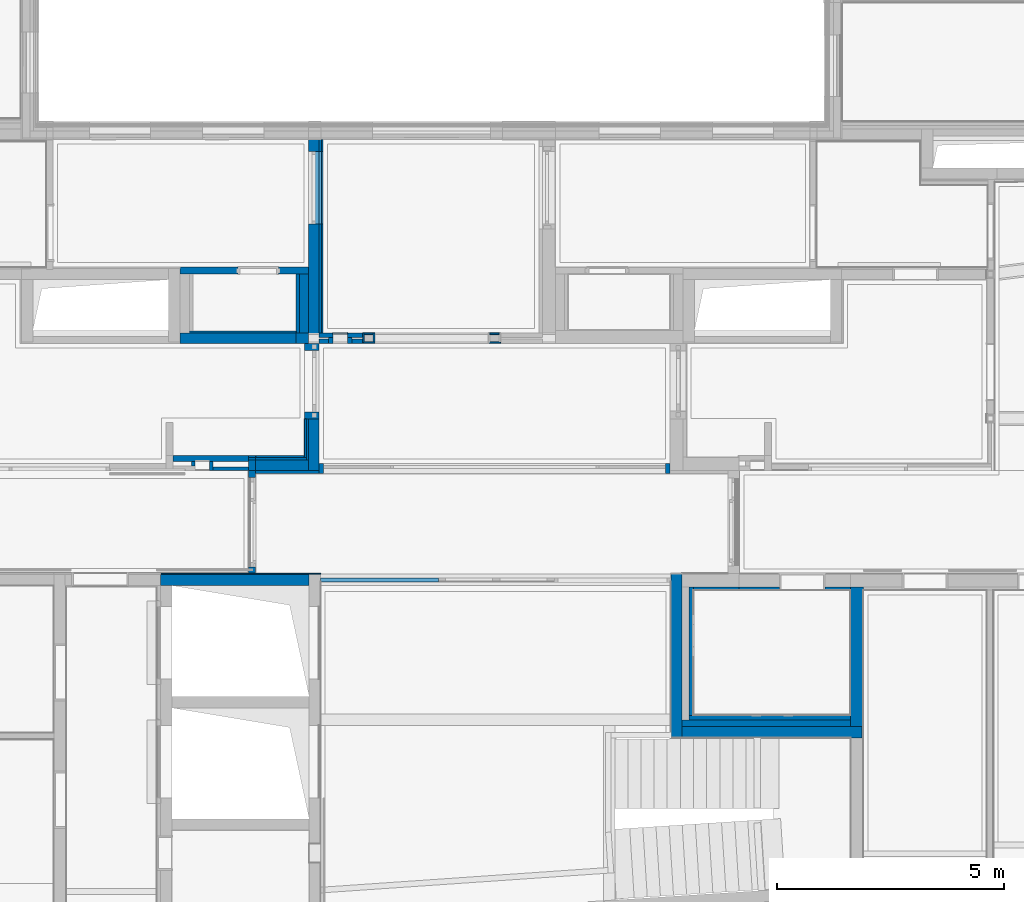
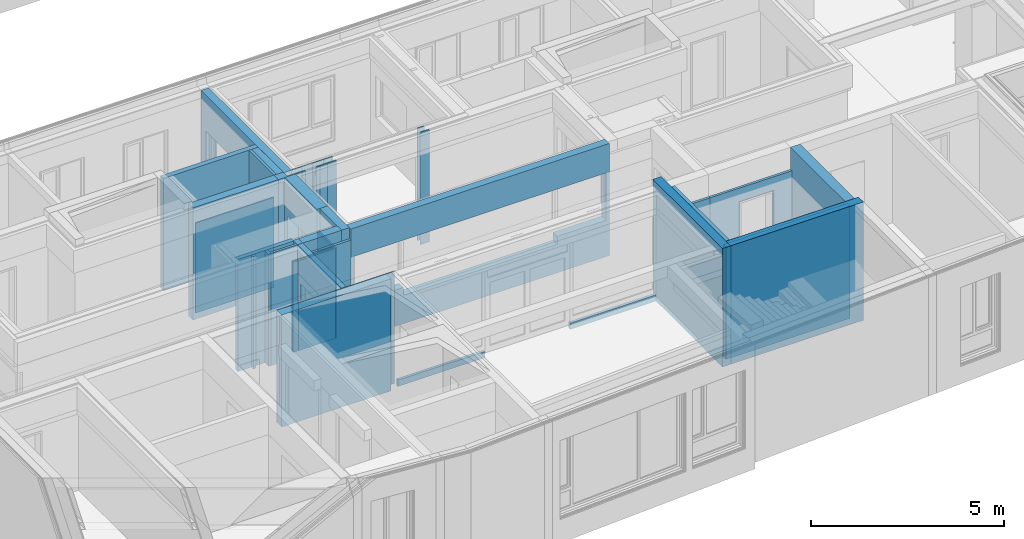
# One storey, part 25 of 222: 50 walls, 13 openings.
"""IFC4 building model written with IfcOpenShell, lengths in metres."""

from ifc_helpers import new_model, entity, si_unit, converted_unit, derived_unit, frame, frame_2d, origin, origin_with_axes, place, context, subcontext, project, spatial, polyline, rectangle, outline, extrude, clip, bounded_halfspace, material, element, save


model = new_model("IFC4")

# Units and contexts
model_context = context("Model", 3, precision=1e-05, world=origin())
body_context = subcontext(model_context, "Body", "Model", "MODEL_VIEW")
ifc_project = project(units=[si_unit("LENGTHUNIT", "METRE"), si_unit("AREAUNIT", "SQUARE_METRE"), si_unit("VOLUMEUNIT", "CUBIC_METRE"), si_unit("MASSUNIT", "GRAM", prefix="KILO"), converted_unit("PLANEANGLEUNIT", "DEGREE", entity("IfcPlaneAngleMeasure", 0.0174532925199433), si_unit("PLANEANGLEUNIT", "RADIAN"), dimensions=[0, 0, 0, 0, 0, 0, 0]), derived_unit("THERMALTRANSMITTANCEUNIT", [(si_unit("POWERUNIT", "WATT"), 1), (si_unit("THERMODYNAMICTEMPERATUREUNIT", "KELVIN"), -1), (si_unit("LENGTHUNIT", "METRE"), -2)]), derived_unit("VOLUMETRICFLOWRATEUNIT", [(si_unit("LENGTHUNIT", "METRE"), 3), (converted_unit("TIMEUNIT", "hour", entity("IfcTimeMeasure", 3600.0), si_unit("TIMEUNIT", "SECOND"), dimensions=[0, 0, 1, 0, 0, 0, 0]), -1), (si_unit("LENGTHUNIT", "METRE"), -1)])], contexts=[model_context])

# Site, building, storey
site_placement = place(None, origin())
site = spatial("IfcSite", under=ifc_project, at=site_placement, Name="Psychiatrie Neubau Wunstorf", CompositionType="ELEMENT")
building_placement = place(site_placement, origin())
building = spatial("IfcBuilding", under=site, at=building_placement, Name="Neubau H2 Stationsgebäude", CompositionType="ELEMENT")
storey_placement = place(building_placement, frame((0.0, 0.0, 3.6)))
storey = spatial("IfcBuildingStorey", under=building, at=storey_placement, Name="H2 Ebene +1", CompositionType="ELEMENT", Elevation=3.6)

# Walls
ifc_material_1 = material(Name="WI-HW 60")
wall_1_placement = place(storey_placement, frame((50.5180000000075, 2.81749969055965, 0.0), z_axis=(0.0, 0.0, 1.0), x_axis=(0.0, 1.0, 0.0)))
element("IfcWall", 1, at=wall_1_placement, inside=storey, material=ifc_material_1, context=body_context, shape_type="SweptSolid", body=[
    extrude(rectangle(XDim=1.13500052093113, YDim=0.232, at=frame_2d((0.567500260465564, 0.116), x_axis=(1.0, 0.0))), origin_with_axes(), (0.0, 0.0, 1.0), 3.55),
])
ifc_material_2 = material(Name="Installationsraum")
wall_2_placement = place(storey_placement, frame((50.2860000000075, 3.04949969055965, 0.0), z_axis=(0.0, 0.0, 1.0), x_axis=(0.0, 1.0, 0.0)))
element("IfcWall", 2, at=wall_2_placement, inside=storey, material=ifc_material_2, context=body_context, shape_type="SweptSolid", body=[
    extrude(rectangle(XDim=0.903000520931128, YDim=0.05, at=frame_2d((0.451500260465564, 0.025), x_axis=(1.0, 0.0))), origin_with_axes(), (0.0, 0.0, 1.0), 2.85),
])
ifc_material_3 = material(Name="WI-LB")
wall_3_placement = place(storey_placement, frame((50.2360000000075, 3.10249969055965, 0.0), z_axis=(0.0, 0.0, 1.0), x_axis=(0.0, 1.0, 0.0)))
element("IfcWall", 3, at=wall_3_placement, inside=storey, material=ifc_material_3, context=body_context, shape_type="SweptSolid", body=[
    extrude(rectangle(XDim=0.850000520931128, YDim=0.04, at=frame_2d((0.425000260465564, 0.02), x_axis=(1.0, 0.0))), origin_with_axes(), (0.0, 0.0, 1.0), 2.85),
])
ifc_material_4 = material(Name="WI-STB")
wall_4_placement = place(storey_placement, frame((47.0200048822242, 0.275000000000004, 0.0), z_axis=(0.0, 0.0, 1.0), x_axis=(1.0, -1.0398201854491e-16, 0.0)))
element("IfcWall", 4, at=wall_4_placement, inside=storey, material=ifc_material_4, context=body_context, shape_type="SweptSolid", body=[
    extrude(rectangle(XDim=3.2799951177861, YDim=0.25, at=frame_2d((1.63999755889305, 0.125), x_axis=(1.0, 0.0))), origin_with_axes(), (0.0, 0.0, 1.0), 3.55),
])
ifc_material_5 = material(Name="WI-HW 60")
wall_5_placement = place(storey_placement, frame((62.239793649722, 0.246002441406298, 0.0), z_axis=(0.0, 0.0, 1.0), x_axis=(0.0, -1.0, 0.0)))
element("IfcWall", 5, at=wall_5_placement, inside=storey, material=ifc_material_5, context=body_context, shape_type="SweptSolid", body=[
    extrude(rectangle(XDim=3.084493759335, YDim=0.29, at=frame_2d((1.5422468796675, 0.145), x_axis=(1.0, 0.0))), origin_with_axes(), (0.0, 0.0, 1.0), 3.55),
])

# Wall, opening
ifc_material_6 = material(Name="WI-LB")
wall_6_placement = place(storey_placement, frame((50.2860000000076, 7.29999969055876, 0.0), z_axis=(0.0, 0.0, 1.0), x_axis=(-1.0, 0.0, 0.0)))
wall_6 = element("IfcWall", 6, at=wall_6_placement, inside=storey, material=ifc_material_6, context=body_context, shape_type="SweptSolid", body=[
    extrude(rectangle(XDim=2.83600000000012, YDim=0.15, at=frame_2d((1.41800000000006, 0.075), x_axis=(1.0, 0.0))), origin_with_axes(), (0.0, 0.0, 1.0), 3.55),
])
opening_1_placement = place(wall_6_placement, frame((1.55350000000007, 0.15, 0.0), z_axis=(0.0, -1.0, 0.0), x_axis=(0.0, 0.0, 1.0)))
element("IfcOpeningElement", 7, at=opening_1_placement, cuts=wall_6, Name="Türöffnung", ObjectType="Opening", context=body_context, shape_type="SweptSolid", body=[
    extrude(outline(polyline([(2.41, 0.885), (2.41, 0.0), (0.0, 0.0), (0.0, 0.885), (2.41, 0.885)])), origin_with_axes(), (0.0, 0.0, 1.0), 0.15),
])

# Walls
ifc_material_7 = material(Name="WI-LB")
wall_7_placement = place(storey_placement, frame((50.8210650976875, 5.82449969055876, 0.0)))
element("IfcWall", 8, at=wall_7_placement, inside=storey, material=ifc_material_7, context=body_context, shape_type="SweptSolid", body=[
    extrude(rectangle(XDim=0.325000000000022, YDim=0.025, at=frame_2d((0.162500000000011, 0.0125), x_axis=(1.0, 0.0))), origin_with_axes(), (0.0, 0.0, 1.0), 3.55),
])
ifc_material_8 = material(Name="WI-LB")
wall_8_placement = place(storey_placement, frame((50.0110000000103, 5.88950021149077, 0.0), z_axis=(0.0, 0.0, 1.0), x_axis=(-1.0, 0.0, 0.0)))
element("IfcWall", 9, at=wall_8_placement, inside=storey, material=ifc_material_8, context=body_context, shape_type="SweptSolid", body=[
    extrude(rectangle(XDim=2.35100000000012, YDim=0.04, at=frame_2d((1.17550000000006, 0.02), x_axis=(1.0, 0.0))), origin_with_axes(), (0.0, 0.0, 1.0), 2.85),
])
ifc_material_9 = material(Name="WI-HW 60")
wall_9_placement = place(storey_placement, frame((50.0110000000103, 5.84950021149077, 0.0), z_axis=(0.0, 0.0, 1.0), x_axis=(-1.0, 0.0, 0.0)))
element("IfcWall", 10, at=wall_9_placement, inside=storey, material=ifc_material_9, context=body_context, shape_type="SweptSolid", body=[
    extrude(rectangle(XDim=2.56100000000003, YDim=0.232, at=frame_2d((1.28050000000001, 0.116), x_axis=(1.0, 0.0))), origin_with_axes(), (0.0, 0.0, 1.0), 3.55),
])
ifc_material_10 = material(Name="WI-HW 60")
wall_10_placement = place(storey_placement, frame((50.0110000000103, 5.61750021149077, 0.0)))
element("IfcWall", 11, at=wall_10_placement, inside=storey, material=ifc_material_10, context=body_context, shape_type="Clipping", body=[
    clip(extrude(rectangle(XDim=0.274999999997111, YDim=0.232, at=frame_2d((0.137499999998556, 0.116), x_axis=(1.0, 0.0))), origin_with_axes(), (0.0, 0.0, 1.0), 3.55), bounded_halfspace(frame((0.274749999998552, 0.115999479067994, 3.25), z_axis=(0.0, 0.0, -1.0), x_axis=(0.0, -1.0, 0.0)), True, origin_with_axes(), polyline([(0.2745, 0.195999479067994), (0.2745, 0.0359994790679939), (0.274999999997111, 0.0359994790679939), (0.274999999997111, 0.195999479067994), (0.2745, 0.195999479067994)]))),
])
ifc_material_11 = material(Name="WI-LB")
wall_11_placement = place(storey_placement, frame((50.8210650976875, 5.84949969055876, 0.0), z_axis=(0.0, 0.0, 1.0), x_axis=(-1.0, 4.50148190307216e-14, 0.0)))
element("IfcWall", 12, at=wall_11_placement, inside=storey, material=ifc_material_11, context=body_context, shape_type="Clipping", body=[
    clip(extrude(rectangle(XDim=0.303065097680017, YDim=0.1, at=frame_2d((0.151532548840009, 0.05), x_axis=(1.0, 0.0))), origin_with_axes(), (0.0, 0.0, 1.0), 3.55), bounded_halfspace(frame((0.151532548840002, 0.0680000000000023, 3.25), z_axis=(0.0, 0.0, -1.0), x_axis=(-1.0, -1.08547260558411e-27, 0.0)), True, origin_with_axes(), polyline([(0.30306509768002, 0.1), (0.0, 0.1), (0.0, 0.0359999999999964), (0.303065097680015, 0.03600000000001), (0.30306509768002, 0.1)]))),
])
ifc_material_12 = material(Name="WI-LB")
wall_12_placement = place(storey_placement, frame((50.8210650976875, 5.61749969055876, 0.0), z_axis=(0.0, 0.0, 1.0), x_axis=(0.0, 1.0, 0.0)))
element("IfcWall", 13, at=wall_12_placement, inside=storey, material=ifc_material_12, context=body_context, shape_type="Clipping", body=[
    clip(extrude(rectangle(XDim=0.132, YDim=0.1, at=frame_2d((0.066, 0.05), x_axis=(1.0, 0.0))), origin_with_axes(), (0.0, 0.0, 1.0), 3.55), bounded_halfspace(frame((0.0840000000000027, 0.05, 3.25), z_axis=(0.0, 0.0, -1.0), x_axis=(-1.0, 0.0, 0.0)), True, origin_with_axes(), polyline([(0.132000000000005, 0.1), (0.0360000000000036, 0.1), (0.0360000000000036, 0.0), (0.132, 0.0), (0.132000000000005, 0.1)]))),
])
ifc_material_13 = material(Name="WI-LB")
wall_13_placement = place(storey_placement, frame((50.5180000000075, 5.61750021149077, 0.0), z_axis=(0.0, 0.0, 1.0), x_axis=(0.999999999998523, -1.71887827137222e-06, 0.0)))
element("IfcWall", 14, at=wall_13_placement, inside=storey, material=ifc_material_13, context=body_context, shape_type="Clipping", body=[
    clip(extrude(rectangle(XDim=0.203065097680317, YDim=0.100000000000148, at=frame_2d((0.101532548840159, 0.0500000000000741), x_axis=(1.0, 0.0))), origin_with_axes(), (0.0, 0.0, 1.0), 3.55), bounded_halfspace(frame((0.101532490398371, 0.0679998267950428, 3.25), z_axis=(0.0, 0.0, -1.0), x_axis=(1.40315674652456e-13, -1.0, 0.0)), True, origin_with_axes(), polyline([(0.0, 0.1), (0.0, 0.0359994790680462), (0.203065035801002, 0.0359998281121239), (0.20306492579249, 0.100000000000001), (0.0, 0.1)]))),
])
ifc_material_14 = material(Name="WI-LB")
wall_14_placement = place(storey_placement, frame((51.4759953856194, 5.84949969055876, 0.0), z_axis=(0.0, 0.0, 1.0), x_axis=(-1.0, 0.0, 0.0)))
element("IfcWall", 15, at=wall_14_placement, inside=storey, material=ifc_material_14, context=body_context, shape_type="Clipping", body=[
    clip(extrude(rectangle(XDim=0.329930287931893, YDim=0.1, at=frame_2d((0.164965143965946, 0.05), x_axis=(1.0, 0.0))), origin_with_axes(), (0.0, 0.0, 1.0), 3.55), bounded_halfspace(frame((0.164965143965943, 0.0679999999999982, 3.25), z_axis=(0.0, 0.0, -1.0), x_axis=(1.0, 0.0, 0.0)), True, origin_with_axes(), polyline([(0.0, 0.0359999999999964), (0.329930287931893, 0.0359999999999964), (0.329930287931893, 0.1), (0.0, 0.1), (0.0, 0.0359999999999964)]))),
])
ifc_material_15 = material(Name="WI-LB")
wall_15_placement = place(storey_placement, frame((51.1460650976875, 5.74949969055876, 0.0), z_axis=(0.0, 0.0, 1.0), x_axis=(0.0, -1.0, 0.0)))
element("IfcWall", 16, at=wall_15_placement, inside=storey, material=ifc_material_15, context=body_context, shape_type="Clipping", body=[
    clip(extrude(rectangle(XDim=0.131999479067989, YDim=0.1, at=frame_2d((0.0659997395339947, 0.05), x_axis=(1.0, 0.0))), origin_with_axes(), (0.0, 0.0, 1.0), 3.55), bounded_halfspace(frame((0.0479999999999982, 0.05, 3.25), z_axis=(0.0, 0.0, -1.0), x_axis=(1.0, 0.0, 0.0)), True, origin_with_axes(), polyline([(0.0, 0.0), (0.0959999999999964, 0.0), (0.0959999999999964, 0.1), (0.0, 0.1), (0.0, 0.0)]))),
])
ifc_material_16 = material(Name="WI-LB")
wall_16_placement = place(storey_placement, frame((51.7119956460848, 5.84949969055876, 0.0), z_axis=(0.0, 0.0, 1.0), x_axis=(-1.0, 0.0, 0.0)))
element("IfcWall", 17, at=wall_16_placement, inside=storey, material=ifc_material_16, context=body_context, shape_type="SweptSolid", body=[
    extrude(rectangle(XDim=0.200000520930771, YDim=0.0359997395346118, at=frame_2d((0.100000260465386, 0.0179998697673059), x_axis=(1.0, 0.0))), origin_with_axes(), (0.0, 0.0, 1.0), 3.55),
])
ifc_material_17 = material(Name="WI-LB")
wall_17_placement = place(storey_placement, frame((51.4759953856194, 5.61750021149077, 0.0), z_axis=(0.0, 0.0, 1.0), x_axis=(0.999999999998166, -1.91519121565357e-06, 0.0)))
element("IfcWall", 18, at=wall_17_placement, inside=storey, material=ifc_material_17, context=body_context, shape_type="SweptSolid", body=[
    extrude(outline(polyline([(0.0, 5.2093201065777e-07), (0.271999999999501, 5.2093201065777e-07), (0.271999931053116, 0.0360002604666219), (0.136000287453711, 0.0360002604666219), (0.035999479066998, 0.0360000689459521), (0.0, 5.2093201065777e-07)])), frame((0.0, -5.2093201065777e-07, 0.0), z_axis=(0.0, 0.0, 1.0), x_axis=(1.0, 0.0, 0.0)), (0.0, 0.0, 1.0), 3.55),
])
ifc_material_18 = material(Name="WI-LB")
wall_18_placement = place(storey_placement, frame((51.7479953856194, 5.65349943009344, 0.0), z_axis=(0.0, 0.0, 1.0), x_axis=(0.0, 1.0, 0.0)))
element("IfcWall", 19, at=wall_18_placement, inside=storey, material=ifc_material_18, context=body_context, shape_type="Clipping", body=[
    clip(extrude(rectangle(XDim=0.196000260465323, YDim=0.0359997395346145, at=frame_2d((0.0980001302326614, 0.0179998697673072), x_axis=(1.0, 0.0))), origin_with_axes(), (0.0, 0.0, 1.0), 3.55), bounded_halfspace(frame((0.0800001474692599, 0.0179998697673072, 3.25), z_axis=(0.0, 0.0, -1.0), x_axis=(-1.0, 0.0, 0.0)), True, origin_with_axes(), polyline([(0.160000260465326, 0.0359997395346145), (6.89463849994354e-08, 0.0359997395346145), (0.0, 0.0), (0.160000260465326, 0.0), (0.160000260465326, 0.0359997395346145)]))),
])
ifc_material_19 = material(Name="WI-LB")
wall_19_placement = place(storey_placement, frame((51.4759953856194, 5.84949969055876, 0.0), z_axis=(0.0, 0.0, 1.0), x_axis=(0.0, -1.0, 0.0)))
element("IfcWall", 20, at=wall_19_placement, inside=storey, material=ifc_material_19, context=body_context, shape_type="Clipping", body=[
    clip(extrude(outline(polyline([(-0.231999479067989, 0.0), (0.0, 0.0), (-0.0359996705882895, 0.0359997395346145), (-0.231999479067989, 0.0359997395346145), (-0.231999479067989, 0.0)])), frame((0.231999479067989, 0.0, 0.0), z_axis=(0.0, 0.0, 1.0), x_axis=(1.0, 0.0, 0.0)), (0.0, 0.0, 1.0), 3.55), bounded_halfspace(frame((0.115999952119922, 0.0179998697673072, 3.25), z_axis=(0.0, 0.0, -1.0), x_axis=(1.0, 0.0, 0.0)), True, origin_with_axes(), polyline([(0.0359999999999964, 0.0), (0.195999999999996, 0.0), (0.1959998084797, 0.0359997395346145), (0.0359999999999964, 0.0359997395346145), (0.0359999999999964, 0.0)]))),
])
ifc_material_20 = material(Name="WI-LB")
wall_20_placement = place(storey_placement, frame((54.4884932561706, 5.84949969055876, 0.0), z_axis=(0.0, 0.0, 1.0), x_axis=(-1.0, 0.0, 0.0)))
element("IfcWall", 21, at=wall_20_placement, inside=storey, material=ifc_material_20, context=body_context, shape_type="SweptSolid", body=[
    extrude(rectangle(XDim=0.200000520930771, YDim=0.0359997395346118, at=frame_2d((0.100000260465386, 0.0179998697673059), x_axis=(1.0, 0.0))), origin_with_axes(), (0.0, 0.0, 1.0), 3.55),
])
ifc_material_21 = material(Name="WI-LB")
wall_21_placement = place(storey_placement, frame((54.2524929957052, 5.61750021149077, 0.0), z_axis=(0.0, 0.0, 1.0), x_axis=(0.999999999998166, -1.91519121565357e-06, 0.0)))
element("IfcWall", 22, at=wall_21_placement, inside=storey, material=ifc_material_21, context=body_context, shape_type="SweptSolid", body=[
    extrude(outline(polyline([(0.0, 5.2093201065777e-07), (0.271999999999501, 5.2093201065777e-07), (0.271999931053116, 0.0360002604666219), (0.136000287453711, 0.0360002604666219), (0.035999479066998, 0.0360000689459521), (0.0, 5.2093201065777e-07)])), frame((0.0, -5.2093201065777e-07, 0.0), z_axis=(0.0, 0.0, 1.0), x_axis=(1.0, 0.0, 0.0)), (0.0, 0.0, 1.0), 3.55),
])
ifc_material_22 = material(Name="WI-LB")
wall_22_placement = place(storey_placement, frame((47.0200048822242, 0.525000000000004, 0.0)))
element("IfcWall", 23, at=wall_22_placement, inside=storey, material=ifc_material_22, context=body_context, shape_type="SweptSolid", body=[
    extrude(rectangle(XDim=3.5299951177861, YDim=0.024, at=frame_2d((1.76499755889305, 0.012), x_axis=(1.0, 0.0))), origin_with_axes(), (0.0, 0.0, 1.0), 3.55),
])
ifc_material_23 = material(Name="WI-HW 60")
wall_23_placement = place(storey_placement, frame((48.9646906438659, 2.81749969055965, 0.0)))
element("IfcWall", 24, at=wall_23_placement, inside=storey, material=ifc_material_23, context=body_context, shape_type="SweptSolid", body=[
    extrude(rectangle(XDim=0.155, YDim=0.232, at=frame_2d((0.0775, 0.116), x_axis=(1.0, 0.0))), origin_with_axes(), (0.0, 0.0, 1.0), 3.55),
])
ifc_material_24 = material(Name="Installationsraum")
wall_24_placement = place(storey_placement, frame((48.9646906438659, 3.04949969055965, 0.0)))
element("IfcWall", 25, at=wall_24_placement, inside=storey, material=ifc_material_24, context=body_context, shape_type="SweptSolid", body=[
    extrude(rectangle(XDim=0.155, YDim=0.0530000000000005, at=frame_2d((0.0775, 0.0265000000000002), x_axis=(1.0, 0.0))), origin_with_axes(), (0.0, 0.0, 1.0), 2.85),
])
ifc_material_25 = material(Name="WI-LB")
wall_25_placement = place(storey_placement, frame((48.9646906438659, 3.10249969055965, 0.0)))
element("IfcWall", 26, at=wall_25_placement, inside=storey, material=ifc_material_25, context=body_context, shape_type="SweptSolid", body=[
    extrude(rectangle(XDim=0.155, YDim=0.04, at=frame_2d((0.0775, 0.02), x_axis=(1.0, 0.0))), origin_with_axes(), (0.0, 0.0, 1.0), 2.85),
])
ifc_material_26 = material(Name="WI-LB")
wall_26_placement = place(storey_placement, frame((47.7763707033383, 2.91749969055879, 0.0), z_axis=(0.0, 0.0, 1.0), x_axis=(0.0, 1.0, 0.0)))
element("IfcWall", 27, at=wall_26_placement, inside=storey, material=ifc_material_26, context=body_context, shape_type="SweptSolid", body=[
    extrude(rectangle(XDim=0.0999999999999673, YDim=0.075, at=frame_2d((0.0499999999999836, 0.0375), x_axis=(1.0, 0.0))), origin_with_axes(), (0.0, 0.0, 1.0), 3.55),
])
ifc_material_27 = material(Name="WI-LB")
wall_27_placement = place(storey_placement, frame((48.1013707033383, 3.01749969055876, 0.0), z_axis=(0.0, 0.0, 1.0), x_axis=(0.0, -1.0, 0.0)))
element("IfcWall", 28, at=wall_27_placement, inside=storey, material=ifc_material_27, context=body_context, shape_type="SweptSolid", body=[
    extrude(rectangle(XDim=0.199999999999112, YDim=0.075, at=frame_2d((0.0999999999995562, 0.0375), x_axis=(1.0, 0.0))), origin_with_axes(), (0.0, 0.0, 1.0), 3.55),
])

# Wall, opening
ifc_material_28 = material(Name="WI-LB")
wall_28_placement = place(storey_placement, frame((50.6080000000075, 5.84949969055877, 0.0), z_axis=(0.0, 0.0, 1.0), x_axis=(0.0, 1.0, 0.0)))
wall_28 = element("IfcWall", 29, at=wall_28_placement, inside=storey, material=ifc_material_28, context=body_context, shape_type="SweptSolid", body=[
    extrude(rectangle(XDim=4.26450000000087, YDim=0.04, at=frame_2d((2.13225000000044, 0.02), x_axis=(1.0, 0.0))), origin_with_axes(), (0.0, 0.0, 1.0), 3.15),
])
opening_2_placement = place(wall_28_placement, frame((2.40200000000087, 0.0, 1.1), z_axis=(0.0, 1.0, 0.0), x_axis=(0.0, 0.0, 1.0)))
element("IfcOpeningElement", 30, at=opening_2_placement, cuts=wall_28, Name="Fensteröffnung", ObjectType="Opening", context=body_context, shape_type="SweptSolid", body=[
    extrude(outline(polyline([(1.31, 1.6), (1.31, 0.0), (0.0, 0.0), (0.0, 1.6), (1.31, 1.6)])), origin_with_axes(), (0.0, 0.0, 1.0), 0.04),
])

ifc_material_29 = material(Name="Installationsraum")
wall_29_placement = place(storey_placement, frame((50.5680000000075, 5.84949969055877, 0.0), z_axis=(0.0, 0.0, 1.0), x_axis=(0.0, 1.0, 0.0)))
wall_29 = element("IfcWall", 31, at=wall_29_placement, inside=storey, material=ifc_material_29, context=body_context, shape_type="SweptSolid", body=[
    extrude(rectangle(XDim=4.26450000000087, YDim=0.05, at=frame_2d((2.13225000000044, 0.025), x_axis=(1.0, 0.0))), origin_with_axes(), (0.0, 0.0, 1.0), 3.15),
])
opening_3_placement = place(wall_29_placement, frame((2.40200000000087, 0.0, 1.1), z_axis=(0.0, 1.0, 0.0), x_axis=(0.0, 0.0, 1.0)))
element("IfcOpeningElement", 32, at=opening_3_placement, cuts=wall_29, Name="Fensteröffnung", ObjectType="Opening", context=body_context, shape_type="SweptSolid", body=[
    extrude(outline(polyline([(1.31, 1.6), (1.31, 0.0), (0.0, 0.0), (0.0, 1.6), (1.31, 1.6)])), origin_with_axes(), (0.0, 0.0, 1.0), 0.05),
])

ifc_material_30 = material(Name="WI-HW 60")
wall_30_placement = place(storey_placement, frame((50.5180000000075, 5.61750021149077, 0.0), z_axis=(0.0, 0.0, 1.0), x_axis=(0.0, 1.0, 0.0)))
wall_30 = element("IfcWall", 33, at=wall_30_placement, inside=storey, material=ifc_material_30, context=body_context, shape_type="Clipping", body=[
    clip(extrude(rectangle(XDim=4.49649947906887, YDim=0.232, at=frame_2d((2.24824973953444, 0.116), x_axis=(1.0, 0.0))), origin_with_axes(), (0.0, 0.0, 1.0), 3.55), bounded_halfspace(frame((0.115999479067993, 0.116, 3.25), z_axis=(0.0, 0.0, -1.0), x_axis=(-1.0, 0.0, 0.0)), True, origin_with_axes(), polyline([(0.195999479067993, 0.232), (0.035999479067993, 0.232), (0.035999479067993, 0.0), (0.195999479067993, 0.0), (0.195999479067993, 0.232)]))),
])
opening_4_placement = place(wall_30_placement, frame((2.63399947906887, 0.0, 1.1), z_axis=(0.0, 1.0, 0.0), x_axis=(0.0, 0.0, 1.0)))
element("IfcOpeningElement", 34, at=opening_4_placement, cuts=wall_30, Name="Fensteröffnung", ObjectType="Opening", context=body_context, shape_type="SweptSolid", body=[
    extrude(outline(polyline([(1.31, 1.6), (1.31, 0.0), (0.0, 0.0), (0.0, 1.6), (1.31, 1.6)])), origin_with_axes(), (0.0, 0.0, 1.0), 0.232),
])

# Walls
ifc_material_31 = material(Name="Installationsraum")
wall_31_placement = place(storey_placement, frame((50.2855000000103, 5.84950021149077, 0.0), z_axis=(0.0, 0.0, 1.0), x_axis=(0.0, 1.0, 0.0)))
element("IfcWall", 35, at=wall_31_placement, inside=storey, material=ifc_material_31, context=body_context, shape_type="SweptSolid", body=[
    extrude(rectangle(XDim=1.30049947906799, YDim=0.1995, at=frame_2d((0.650249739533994, 0.09975), x_axis=(1.0, 0.0))), origin_with_axes(), (0.0, 0.0, 1.0), 3.55),
])
ifc_material_32 = material(Name="WI-VS")
wall_32_placement = place(storey_placement, frame((50.0860000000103, 5.84950021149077, 0.0), z_axis=(0.0, 0.0, 1.0), x_axis=(0.0, 1.0, 0.0)))
element("IfcWall", 36, at=wall_32_placement, inside=storey, material=ifc_material_32, context=body_context, shape_type="SweptSolid", body=[
    extrude(rectangle(XDim=1.30049947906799, YDim=0.075, at=frame_2d((0.650249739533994, 0.0375), x_axis=(1.0, 0.0))), origin_with_axes(), (0.0, 0.0, 1.0), 3.55),
])
ifc_material_33 = material(Name="WI-VS")
wall_33_placement = place(storey_placement, frame((58.678000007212, 0.246002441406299, 0.0), z_axis=(0.0, 0.0, 1.0), x_axis=(0.0, -1.0, 0.0)))
element("IfcWall", 37, at=wall_33_placement, inside=storey, material=ifc_material_33, context=body_context, shape_type="SweptSolid", body=[
    extrude(rectangle(XDim=2.834493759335, YDim=0.1, at=frame_2d((1.4172468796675, 0.05), x_axis=(1.0, 0.0))), origin_with_axes(), (0.0, 0.0, 1.0), 3.55),
])
ifc_material_34 = material(Name="Installationsraum")
wall_34_placement = place(storey_placement, frame((58.528000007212, -2.8384913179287, 0.0)))
element("IfcWall", 38, at=wall_34_placement, inside=storey, material=ifc_material_34, context=body_context, shape_type="SweptSolid", body=[
    extrude(rectangle(XDim=3.71179364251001, YDim=0.15, at=frame_2d((1.85589682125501, 0.075), x_axis=(1.0, 0.0))), origin_with_axes(), (0.0, 0.0, 1.0), 3.55),
])
ifc_material_35 = material(Name="WI-VS")
wall_35_placement = place(storey_placement, frame((58.678000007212, -2.6884913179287, 0.0)))
element("IfcWall", 39, at=wall_35_placement, inside=storey, material=ifc_material_35, context=body_context, shape_type="SweptSolid", body=[
    extrude(rectangle(XDim=3.56179364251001, YDim=0.1, at=frame_2d((1.78089682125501, 0.05), x_axis=(1.0, 0.0))), origin_with_axes(), (0.0, 0.0, 1.0), 3.55),
])

# Wall, opening
ifc_material_36 = material(Name="WI-LW 60")
wall_36_placement = place(storey_placement, frame((50.5180000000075, 3.95250021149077, 0.0), z_axis=(0.0, 0.0, 1.0), x_axis=(0.0, 1.0, 0.0)))
wall_36 = element("IfcWall", 40, at=wall_36_placement, inside=storey, material=ifc_material_36, context=body_context, shape_type="SweptSolid", body=[
    extrude(rectangle(XDim=1.665, YDim=0.322, at=frame_2d((0.8325, 0.161), x_axis=(1.0, 0.0))), origin_with_axes(), (0.0, 0.0, 1.0), 3.55),
])
opening_5_placement = place(wall_36_placement, frame((0.1549999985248, 0.0, 0.0), z_axis=(0.0, 1.0, 0.0), x_axis=(0.0, 0.0, 1.0)))
element("IfcOpeningElement", 41, at=opening_5_placement, cuts=wall_36, Name="Türöffnung", ObjectType="Opening", context=body_context, shape_type="SweptSolid", body=[
    extrude(outline(polyline([(2.41, 1.355), (2.41, 0.0), (0.0, 0.0), (0.0, 1.355), (2.41, 1.355)])), origin_with_axes(), (0.0, 0.0, 1.0), 0.322),
])

# Walls
ifc_material_37 = material(Name="WI-LB")
wall_37_placement = place(storey_placement, frame((49.119690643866, 2.74249969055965, 0.0), z_axis=(0.0, 0.0, 1.0), x_axis=(1.0, -3.25212263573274e-16, 0.0)))
element("IfcWall", 42, at=wall_37_placement, inside=storey, material=ifc_material_37, context=body_context, shape_type="SweptSolid", body=[
    extrude(rectangle(XDim=1.3983093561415, YDim=0.075, at=frame_2d((0.69915467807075, 0.0375), x_axis=(1.0, 0.0))), origin_with_axes(), (0.0, 0.0, 1.0), 3.2),
])
ifc_material_38 = material(Name="WI-HW 60")
wall_38_placement = place(storey_placement, frame((49.119690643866, 2.81749969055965, 0.0), z_axis=(0.0, 0.0, 1.0), x_axis=(1.0, -3.89902857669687e-16, 0.0)))
element("IfcWall", 43, at=wall_38_placement, inside=storey, material=ifc_material_38, context=body_context, shape_type="SweptSolid", body=[
    extrude(rectangle(XDim=1.1663093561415, YDim=0.232, at=frame_2d((0.58315467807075, 0.116), x_axis=(1.0, 0.0))), origin_with_axes(), (0.0, 0.0, 1.0), 3.55),
])
ifc_material_39 = material(Name="Installationsraum")
wall_39_placement = place(storey_placement, frame((49.119690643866, 3.04949969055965, 0.0), z_axis=(0.0, 0.0, 1.0), x_axis=(1.0, -4.07366782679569e-16, 0.0)))
element("IfcWall", 44, at=wall_39_placement, inside=storey, material=ifc_material_39, context=body_context, shape_type="SweptSolid", body=[
    extrude(rectangle(XDim=1.1163093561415, YDim=0.053, at=frame_2d((0.55815467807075, 0.0265), x_axis=(1.0, 0.0))), origin_with_axes(), (0.0, 0.0, 1.0), 2.85),
])
ifc_material_40 = material(Name="WI-LB")
wall_40_placement = place(storey_placement, frame((49.119690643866, 3.10249969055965, 0.0), z_axis=(0.0, 0.0, 1.0), x_axis=(1.0, -4.22506176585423e-16, 0.0)))
element("IfcWall", 45, at=wall_40_placement, inside=storey, material=ifc_material_40, context=body_context, shape_type="SweptSolid", body=[
    extrude(rectangle(XDim=1.0763093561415, YDim=0.04, at=frame_2d((0.53815467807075, 0.02), x_axis=(1.0, 0.0))), origin_with_axes(), (0.0, 0.0, 1.0), 2.85),
])
ifc_material_41 = material(Name="WI-LB")
wall_41_placement = place(storey_placement, frame((48.9646906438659, 3.14249969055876, 0.0), z_axis=(0.0, 0.0, 1.0), x_axis=(-1.0, 0.0, 0.0)))
element("IfcWall", 46, at=wall_41_placement, inside=storey, material=ifc_material_41, context=body_context, shape_type="SweptSolid", body=[
    extrude(rectangle(XDim=1.67177869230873, YDim=0.125, at=frame_2d((0.835889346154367, 0.0625), x_axis=(1.0, 0.0))), origin_with_axes(), (0.0, 0.0, 1.0), 3.55),
])
ifc_material_42 = material(Name="WI-LB")
wall_42_placement = place(storey_placement, frame((48.1763707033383, 2.81749969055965, 0.0)))
element("IfcWall", 47, at=wall_42_placement, inside=storey, material=ifc_material_42, context=body_context, shape_type="SweptSolid", body=[
    extrude(rectangle(XDim=0.788319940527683, YDim=0.075, at=frame_2d((0.394159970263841, 0.0375), x_axis=(1.0, 0.0))), origin_with_axes(), (0.0, 0.0, 1.0), 3.55),
])
ifc_material_43 = material(Name="WI-LB")
wall_43_placement = place(storey_placement, frame((51.2460650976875, 5.61750021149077, 0.0)))
element("IfcWall", 48, at=wall_43_placement, inside=storey, material=ifc_material_43, context=body_context, shape_type="Clipping", body=[
    clip(extrude(rectangle(XDim=0.229930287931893, YDim=0.1, at=frame_2d((0.114965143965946, 0.05), x_axis=(1.0, 0.0))), origin_with_axes(), (0.0, 0.0, 1.0), 3.55), bounded_halfspace(frame((0.11496514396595, 0.067999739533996, 3.25), z_axis=(0.0, 0.0, -1.0), x_axis=(0.0, -1.0, 0.0)), True, origin_with_axes(), polyline([(0.0, 0.1), (0.0, 0.035999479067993), (0.229930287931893, 0.035999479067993), (0.229930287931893, 0.1), (0.0, 0.1)]))),
])

# Wall, openings
ifc_material_44 = material(Name="WI-LW 60")
wall_44_placement = place(storey_placement, frame((50.5180000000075, 2.74249969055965, 0.0)))
wall_44 = element("IfcWall", 49, at=wall_44_placement, inside=storey, material=ifc_material_44, context=body_context, shape_type="SweptSolid", body=[
    extrude(rectangle(XDim=7.74200007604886, YDim=0.225, at=frame_2d((3.87100003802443, 0.1125), x_axis=(1.0, 0.0))), origin_with_axes(), (0.0, 0.0, 1.0), 3.55),
])
opening_6_placement = place(wall_44_placement, frame((7.64200007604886, 0.225, 1.15), z_axis=(0.0, -1.0, 0.0), x_axis=(0.0, 0.0, 1.0)))
element("IfcOpeningElement", 50, at=opening_6_placement, cuts=wall_44, Name="Fensteröffnung", ObjectType="Opening", context=body_context, shape_type="SweptSolid", body=[
    extrude(outline(polyline([(1.5, 1.4619), (1.5, 0.0), (0.0, 0.0), (0.0, 1.4619), (1.5, 1.4619)])), origin_with_axes(), (0.0, 0.0, 1.0), 0.225),
])
opening_7_placement = place(wall_44_placement, frame((6.18010007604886, 0.225, 0.9), z_axis=(0.0, -1.0, 0.0), x_axis=(0.0, 0.0, 1.0)))
element("IfcOpeningElement", 51, at=opening_7_placement, cuts=wall_44, Name="Fensteröffnung", ObjectType="Opening", context=body_context, shape_type="SweptSolid", body=[
    extrude(outline(polyline([(1.75, 4.6076), (1.75, 0.0), (0.0, 0.0), (0.0, 4.6076), (1.75, 4.6076)])), origin_with_axes(), (0.0, 0.0, 1.0), 0.225),
])
opening_8_placement = place(wall_44_placement, frame((1.57250007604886, 0.225, 1.15), z_axis=(0.0, -1.0, 0.0), x_axis=(0.0, 0.0, 1.0)))
element("IfcOpeningElement", 52, at=opening_8_placement, cuts=wall_44, Name="Fensteröffnung", ObjectType="Opening", context=body_context, shape_type="SweptSolid", body=[
    extrude(outline(polyline([(1.5, 1.4725), (1.5, 0.0), (0.0, 0.0), (0.0, 1.4725), (1.5, 1.4725)])), origin_with_axes(), (0.0, 0.0, 1.0), 0.225),
])

# Wall
ifc_material_45 = material(Name="WI-LB")
wall_45_placement = place(storey_placement, frame((59.7893138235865, 0.246002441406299, 0.0), z_axis=(0.0, 0.0, 1.0), x_axis=(-1.0, 1.12414995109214e-16, 0.0)))
element("IfcWall", 53, at=wall_45_placement, inside=storey, material=ifc_material_45, context=body_context, shape_type="SweptSolid", body=[
    extrude(rectangle(XDim=1.01131381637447, YDim=0.075, at=frame_2d((0.505656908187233, 0.0375), x_axis=(1.0, 0.0))), origin_with_axes(), (0.0, 0.0, 1.0), 2.85),
])

# Wall, opening
ifc_material_46 = material(Name="WI-LB")
wall_46_placement = place(storey_placement, frame((62.239793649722, 0.246002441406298, 0.0), z_axis=(0.0, 0.0, 1.0), x_axis=(-1.0, 1.39181114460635e-16, 0.0)))
wall_46 = element("IfcWall", 54, at=wall_46_placement, inside=storey, material=ifc_material_46, context=body_context, shape_type="SweptSolid", body=[
    extrude(rectangle(XDim=2.45047982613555, YDim=0.075, at=frame_2d((1.22523991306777, 0.0375), x_axis=(1.0, 0.0))), origin_with_axes(), (0.0, 0.0, 1.0), 2.85),
])
opening_9_placement = place(wall_46_placement, frame((1.56556807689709, 0.0749999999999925, 0.0), z_axis=(0.0, -1.0, 0.0), x_axis=(0.0, 0.0, 1.0)))
element("IfcOpeningElement", 55, at=opening_9_placement, cuts=wall_46, Name="Türöffnung", ObjectType="Opening", context=body_context, shape_type="SweptSolid", body=[
    extrude(outline(polyline([(2.41, 1.01), (2.41, 0.0), (0.0, 0.0), (0.0, 1.01), (2.41, 1.01)])), origin_with_axes(), (0.0, 0.0, 1.0), 0.075),
])

ifc_material_47 = material(Name="WI-LB")
wall_47_placement = place(storey_placement, frame((48.9646906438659, 2.81749969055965, 0.0), z_axis=(0.0, 0.0, 1.0), x_axis=(0.0, -1.0, 0.0)))
wall_47 = element("IfcWall", 56, at=wall_47_placement, inside=storey, material=ifc_material_47, context=body_context, shape_type="SweptSolid", body=[
    extrude(rectangle(XDim=2.26749969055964, YDim=0.155, at=frame_2d((1.13374984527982, 0.0775), x_axis=(1.0, 0.0))), origin_with_axes(), (0.0, 0.0, 1.0), 3.55),
])
opening_10_placement = place(wall_47_placement, frame((2.13749984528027, 0.155, 0.0), z_axis=(0.0, -1.0, 0.0), x_axis=(0.0, 0.0, 1.0)))
element("IfcOpeningElement", 57, at=opening_10_placement, cuts=wall_47, Name="Türöffnung", ObjectType="Opening", context=body_context, shape_type="SweptSolid", body=[
    extrude(outline(polyline([(2.41, 1.9825), (2.41, 0.0), (0.0, 0.0), (0.0, 1.9825), (2.41, 1.9825)])), origin_with_axes(), (0.0, 0.0, 1.0), 0.155),
])

# Wall, openings
ifc_material_48 = material(Name="WI-LB")
wall_48_placement = place(storey_placement, frame((50.5500000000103, 0.356002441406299, 0.0)))
wall_48 = element("IfcWall", 58, at=wall_48_placement, inside=storey, material=ifc_material_48, context=body_context, shape_type="SweptSolid", body=[
    extrude(rectangle(XDim=7.7280000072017, YDim=0.08, at=frame_2d((3.86400000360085, 0.04), x_axis=(1.0, 0.0))), origin_with_axes(), (0.0, 0.0, 1.0), 2.92),
])
opening_11_placement = place(wall_48_placement, frame((0.0, 0.0, 0.2), z_axis=(0.0, 1.0, 0.0), x_axis=(0.0, 0.0, 1.0)))
element("IfcOpeningElement", 59, at=opening_11_placement, cuts=wall_48, Name="Fensteröffnung", ObjectType="Opening", context=body_context, shape_type="SweptSolid", body=[
    extrude(outline(polyline([(2.75, 2.5989998), (2.75, 0.0), (0.0, 0.0), (0.0, 2.5989998), (2.75, 2.5989998)])), origin_with_axes(), (0.0, 0.0, 1.0), 0.08),
])
opening_12_placement = place(wall_48_placement, frame((2.59899982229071, 0.0, 0.0), z_axis=(0.0, 1.0, 0.0), x_axis=(0.0, 0.0, 1.0)))
element("IfcOpeningElement", 60, at=opening_12_placement, cuts=wall_48, Name="Türöffnung", ObjectType="Opening", context=body_context, shape_type="SweptSolid", body=[
    extrude(outline(polyline([(2.95, 2.56), (2.95, 0.0), (0.0, 0.0), (0.0, 2.56), (2.95, 2.56)])), origin_with_axes(), (0.0, 0.0, 1.0), 0.08),
])
opening_13_placement = place(wall_48_placement, frame((5.15899982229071, 0.0, 0.2), z_axis=(0.0, 1.0, 0.0), x_axis=(0.0, 0.0, 1.0)))
element("IfcOpeningElement", 61, at=opening_13_placement, cuts=wall_48, Name="Fensteröffnung", ObjectType="Opening", context=body_context, shape_type="SweptSolid", body=[
    extrude(outline(polyline([(2.75, 2.56900018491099), (2.75, 0.0), (0.0, 0.0), (0.0, 2.56900018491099), (2.75, 2.56900018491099)])), origin_with_axes(), (0.0, 0.0, 1.0), 0.08),
])

# Walls
ifc_material_49 = material(Name="WI-STB")
wall_49_placement = place(storey_placement, frame((58.528000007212, -3.0884913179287, 0.0)))
element("IfcWall", 62, at=wall_49_placement, inside=storey, material=ifc_material_49, context=body_context, shape_type="SweptSolid", body=[
    extrude(rectangle(XDim=3.97179364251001, YDim=0.25, at=frame_2d((1.985896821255, 0.125), x_axis=(1.0, 0.0))), origin_with_axes(), (0.0, 0.0, 1.0), 3.75),
])
ifc_material_50 = material(Name="WI-STB")
wall_50_placement = place(storey_placement, frame((58.528000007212, -3.0884913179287, 0.0), z_axis=(0.0, 0.0, 1.0), x_axis=(0.0, 1.0, 0.0)))
element("IfcWall", 63, at=wall_50_placement, inside=storey, material=ifc_material_50, context=body_context, shape_type="SweptSolid", body=[
    extrude(rectangle(XDim=3.6134913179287, YDim=0.25, at=frame_2d((1.80674565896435, 0.125), x_axis=(1.0, 0.0))), origin_with_axes(), (0.0, 0.0, 1.0), 3.75),
])

save(model, "model.ifc")
